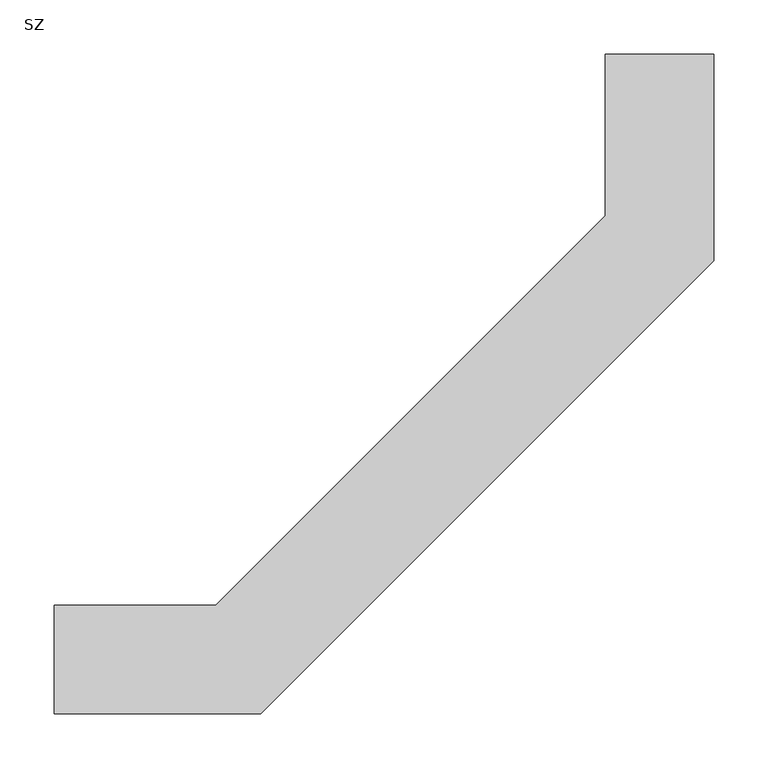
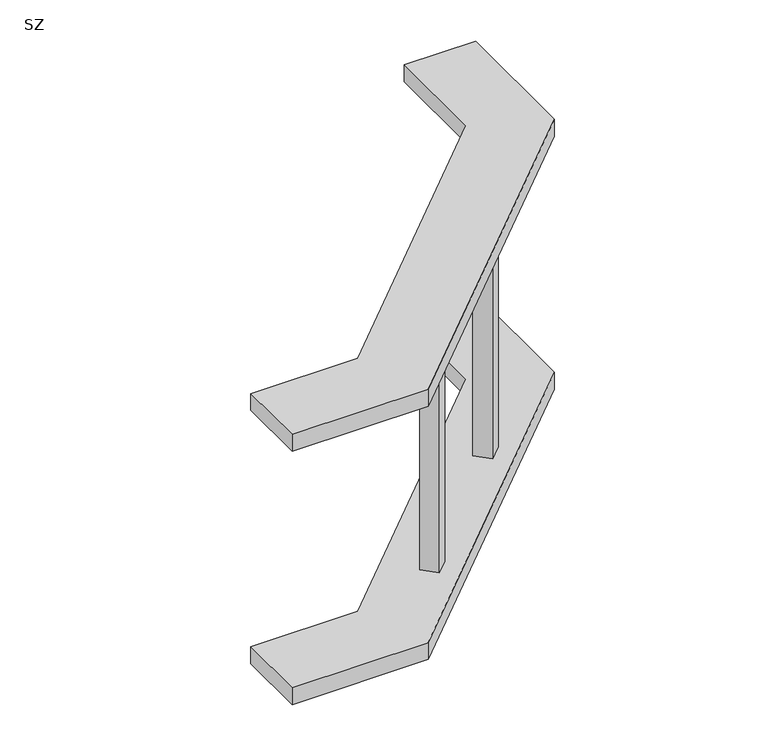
"""IFC4 building model written with IfcOpenShell, lengths in millimetres: cable carrier fitting geometry, IEK_Лестничный_Поворот шарнирный вертик внутр : SZ."""

from ifc_helpers import new_model, si_unit, frame, origin, place, context, project, spatial, polyline, outline, extrude, source, transform, mapped, element, save


def sz_1be927fd(model_context):
    return source(origin(), model_context, "Body", "SweptSolid", [
        extrude(outline(polyline([(-106.0660172, 247.4873734), (-123.7436867, 265.1650429), (-106.0660172, 282.8427125), (-88.3883476, 265.1650429), (-106.0660172, 247.4873734)])), frame((0.0, 0.0, -175.0), z_axis=(0.0, 0.0, 1.0), x_axis=(1.0, 0.0, 0.0)), (0.0, 0.0, 1.0), 350.0),
        extrude(outline(polyline([(-282.8427125, 70.7106781), (-300.520382, 88.3883476), (-282.8427125, 106.0660172), (-265.1650429, 88.3883476), (-282.8427125, 70.7106781)])), frame((0.0, 0.0, -175.0), z_axis=(0.0, 0.0, 1.0), x_axis=(1.0, 0.0, 0.0)), (0.0, 0.0, 1.0), 350.0),
        extrude(outline(polyline([(-558.9087297, -50.0), (-558.9087297, 50.0), (-409.6194078, 50.0), (-50.0, 409.6194078), (-50.0, 558.9087297), (50.0, 558.9087297), (50.0, 368.1980515), (-368.1980515, -50.0), (-558.9087297, -50.0)])), frame((0.0, 0.0, -200.0), z_axis=(0.0, 0.0, 1.0), x_axis=(1.0, 0.0, 0.0)), (0.0, 0.0, 1.0), 25.0),
        extrude(outline(polyline([(-558.9087297, -50.0), (-558.9087297, 50.0), (-409.6194078, 50.0), (-50.0, 409.6194078), (-50.0, 558.9087297), (50.0, 558.9087297), (50.0, 368.1980515), (-368.1980515, -50.0), (-558.9087297, -50.0)])), frame((0.0, 0.0, 175.0), z_axis=(0.0, 0.0, 1.0), x_axis=(1.0, 0.0, 0.0)), (0.0, 0.0, 1.0), 25.0),
    ])


if __name__ == "__main__":
    model = new_model("IFC4")
    model_context = context("Model", 3, world=origin())
    ifc_project = project(units=[si_unit("LENGTHUNIT", "METRE", prefix="MILLI")], contexts=[model_context])
    site = spatial("IfcSite", under=ifc_project)
    building = spatial("IfcBuilding", under=site)
    placement = place(None, origin())
    sz_shape = sz_1be927fd(model_context)
    element("IfcCableCarrierFitting", 1, ObjectType="IEK_Лестничный_Поворот шарнирный вертик внутр : SZ", at=placement, inside=building, context=model_context, shape_type="MappedRepresentation", body=[
        mapped(sz_shape, transform((0.0, 0.0, 0.0), x_axis=(1.0, 0.0, 0.0), y_axis=(0.0, 1.0, 0.0), z_axis=(0.0, 0.0, 1.0))),
    ])
    save(model, "model.ifc")
